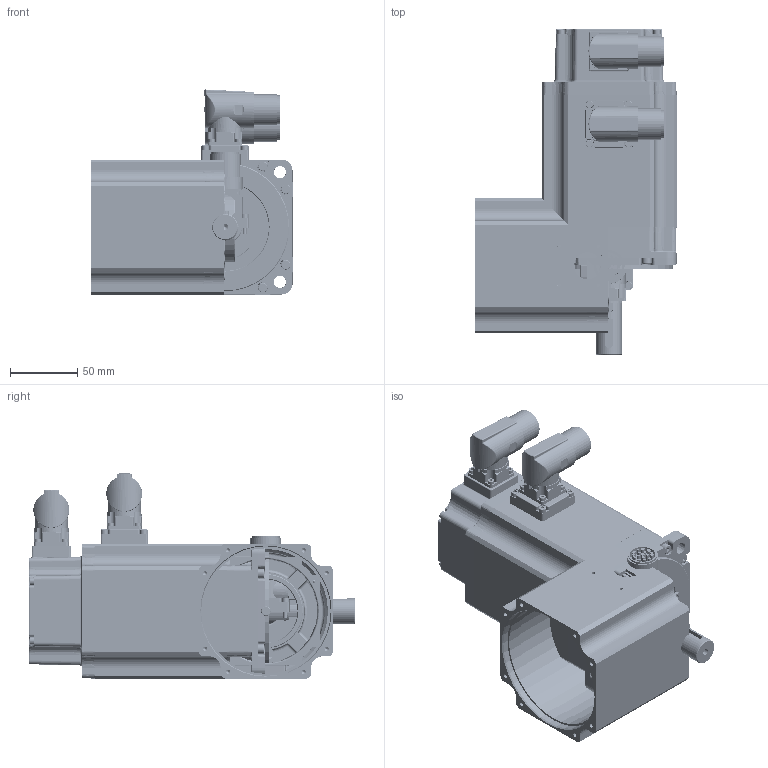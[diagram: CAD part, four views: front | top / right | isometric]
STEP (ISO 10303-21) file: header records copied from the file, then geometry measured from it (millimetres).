
FILE_DESCRIPTION( ( 'Unknown' ), '1' );
FILE_NAME( 'K:/121010-AL Files 3D Step con chiavetta/Q0A517_5,6.stp', 'Unknown', ( 'Unknown' ), ( 'Unknown' ), 'PSStep 14.0', 'Unknown', ' ' );
FILE_SCHEMA( ( 'AUTOMOTIVE_DESIGN { 1 0 10303 214 1 1 1 1 }' ) );
Length unit declared in the file: millimetre
Products named in the file (39): Assem1; BLOCCHETTO x CN_(N45204); N45204; N35210; Vite a brugola testa cil 8,8 -  M 2,5 x 4; Vite a brugola testa cil 8,8 -  M  3 x 12; cavo di terra sez1,5_M3_(N13A15) x CN; anello-elastico-chiuso  52; Vite a brugola testa cil 8,8 -  M  4 x 30; A-Ela 20 P; LI-PIA   6x6 x 30; N11235; N09447; N33454; CUSC_20_52_15_6304_ZZ; CUSC_20_47_14_6204_ZZ; Vite a brugola testa cil 8,8 -  M  4 x 12; Vite a brugola testa cil 8,8 -  M  3 x 40; Vite a brugola testa cil 8,8 -  M  3 x 40-oa0; Vite a brugola testa cil 8,8 -  M  3 x 40-oa1; Vite a brugola testa cil 8,8 -  M  3 x 40-oa2; Vite a brugola testa cil 8,8 -  M 2,5 x 8; CN M23 PAN-POT BEDC 110 4+4 pin 90°o SpTcR; CN M23 PAN-SEG AEDC 139 17 pin 90°o SpTcR; N01596_6,5; N25412_6,5
Bounding box: 149 x 241.5 x 151.96 mm (x, y, z)
Volume: 1459479.8 mm3; surface area: 571388.1 mm2
Topology: 102 solids, 106 shells, 4332 faces, 10518 edges, 6666 vertices
Faces by surface type: plane 1969, cylinder 1164, cone 396, torus 323, bspline 308, sphere 110, extrusion 62
Full cylindrical faces by diameter (mm): 2 x50, 2.013 x15, 2.459 x36, 2.5 x32, 2.7 x16, 3 x25, 3.2 x3, 3.242 x50, 3.5 x32, 4 x14, 4.7 x12, 4.917 x2, 5.5 x17, 7 x14, 8 x2, 17 x4, 19 x4, 19.8 x4, 19.9 x2, 20 x17, 21.3 x4, 23 x4, 24.5 x4, 25 x4, 28.64 x8, 30.24 x8, 33 x4, 36 x6, 38.36 x8, 39 x8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
Entity records: 76888 total; most frequent: CARTESIAN_POINT 21734, DIRECTION 8803, ORIENTED_EDGE 8390, EDGE_CURVE 4195, AXIS2_PLACEMENT_3D 3328, VERTEX_POINT 2851, EDGE_LOOP 2473, VECTOR 2147
